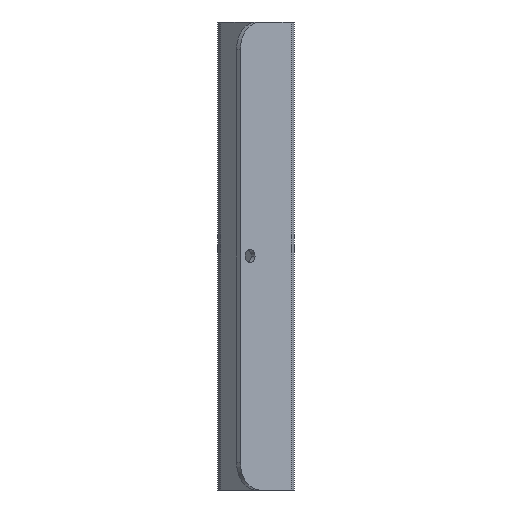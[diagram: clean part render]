
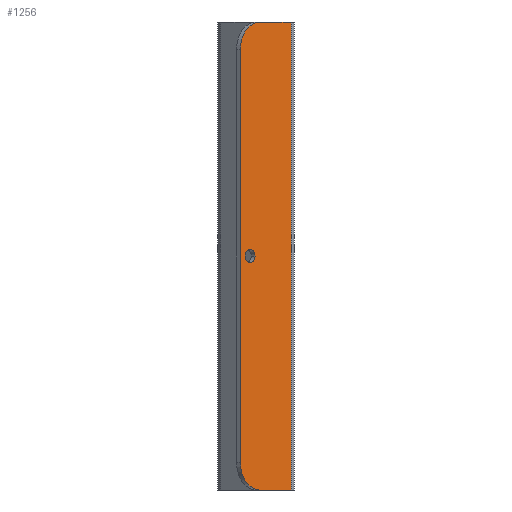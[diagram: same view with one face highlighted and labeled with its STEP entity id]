
A CAD part, left-side view. The second image highlights one B-rep face of the part: STEP entity #1256.
In plain terms, the highlighted planar face has unit normal (-0.707, -0.707, 0).
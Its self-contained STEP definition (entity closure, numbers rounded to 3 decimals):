
#16 = DIRECTION ( 'NONE',  ( 0.707, 0.707, 0. ) ) ;
#20 = CARTESIAN_POINT ( 'NONE',  ( -120.208, 7.071, 5. ) ) ;
#43 = ORIENTED_EDGE ( 'NONE', *, *, #2202, .T. ) ;
#74 = DIRECTION ( 'NONE',  ( 0.707, 0.707, 0. ) ) ;
#127 = DIRECTION ( 'NONE',  ( 0., 0., -1. ) ) ;
#134 = CARTESIAN_POINT ( 'NONE',  ( -113.137, 0., 85. ) ) ;
#186 = DIRECTION ( 'NONE',  ( 0.707, -0.707, 0. ) ) ;
#189 = DIRECTION ( 'NONE',  ( 0., 0., -1. ) ) ;
#198 = VECTOR ( 'NONE', #127, 1000. ) ;
#220 = CARTESIAN_POINT ( 'NONE',  ( -113.137, 0., 0. ) ) ;
#225 = CARTESIAN_POINT ( 'NONE',  ( -121.976, 8.839, 42.5 ) ) ;
#293 = VERTEX_POINT ( 'NONE', #2088 ) ;
#381 = ORIENTED_EDGE ( 'NONE', *, *, #470, .T. ) ;
#394 = EDGE_CURVE ( 'NONE', #293, #1653, #1639, .T. ) ;
#470 = EDGE_CURVE ( 'NONE', #660, #1021, #782, .T. ) ;
#497 = EDGE_CURVE ( 'NONE', #1653, #293, #1141, .T. ) ;
#507 = ORIENTED_EDGE ( 'NONE', *, *, #1745, .T. ) ;
#522 = LINE ( 'NONE', #1527, #1992 ) ;
#571 = AXIS2_PLACEMENT_3D ( 'NONE', #2136, #916, #1766 ) ;
#592 = CARTESIAN_POINT ( 'NONE',  ( -121.976, 8.839, 42.5 ) ) ;
#603 = DIRECTION ( 'NONE',  ( -0.707, 0.707, 0. ) ) ;
#628 = EDGE_LOOP ( 'NONE', ( #507, #381, #43, #1625, #884, #784 ) ) ;
#645 = FACE_OUTER_BOUND ( 'NONE', #628, .T. ) ;
#660 = VERTEX_POINT ( 'NONE', #1368 ) ;
#663 = CARTESIAN_POINT ( 'NONE',  ( -121.092, 7.955, 42.5 ) ) ;
#712 = CARTESIAN_POINT ( 'NONE',  ( -123.744, 10.607, 80. ) ) ;
#723 = LINE ( 'NONE', #220, #1371 ) ;
#727 = EDGE_CURVE ( 'NONE', #1275, #1884, #2166, .T. ) ;
#751 = AXIS2_PLACEMENT_3D ( 'NONE', #592, #74, #603 ) ;
#782 = CIRCLE ( 'NONE', #571, 5. ) ;
#784 = ORIENTED_EDGE ( 'NONE', *, *, #727, .F. ) ;
#798 = DIRECTION ( 'NONE',  ( 0.707, -0.707, 0. ) ) ;
#884 = ORIENTED_EDGE ( 'NONE', *, *, #1834, .F. ) ;
#916 = DIRECTION ( 'NONE',  ( -0.707, -0.707, 0. ) ) ;
#934 = VECTOR ( 'NONE', #1547, 1000. ) ;
#950 = EDGE_CURVE ( 'NONE', #1522, #2054, #1842, .T. ) ;
#1021 = VERTEX_POINT ( 'NONE', #712 ) ;
#1023 = ORIENTED_EDGE ( 'NONE', *, *, #394, .T. ) ;
#1048 = DIRECTION ( 'NONE',  ( -0.707, -0.707, 0. ) ) ;
#1061 = EDGE_LOOP ( 'NONE', ( #1023, #1591 ) ) ;
#1102 = CARTESIAN_POINT ( 'NONE',  ( -120.208, 7.071, 0. ) ) ;
#1113 = CARTESIAN_POINT ( 'NONE',  ( -123.744, 10.607, 5. ) ) ;
#1134 = PLANE ( 'NONE',  #2162 ) ;
#1141 = CIRCLE ( 'NONE', #751, 1.25 ) ;
#1175 = FACE_BOUND ( 'NONE', #1061, .T. ) ;
#1256 = ADVANCED_FACE ( 'NONE', ( #1175, #645 ), #1134, .T. ) ;
#1275 = VERTEX_POINT ( 'NONE', #1313 ) ;
#1313 = CARTESIAN_POINT ( 'NONE',  ( -114.551, 1.414, 85. ) ) ;
#1317 = CARTESIAN_POINT ( 'NONE',  ( -114.551, 1.414, 0. ) ) ;
#1368 = CARTESIAN_POINT ( 'NONE',  ( -120.208, 7.071, 85. ) ) ;
#1371 = VECTOR ( 'NONE', #1407, 1000. ) ;
#1398 = CARTESIAN_POINT ( 'NONE',  ( -113.137, 0., 85. ) ) ;
#1407 = DIRECTION ( 'NONE',  ( -0.707, 0.707, 0. ) ) ;
#1417 = LINE ( 'NONE', #1398, #934 ) ;
#1522 = VERTEX_POINT ( 'NONE', #1113 ) ;
#1527 = CARTESIAN_POINT ( 'NONE',  ( -123.744, 10.607, 85. ) ) ;
#1547 = DIRECTION ( 'NONE',  ( -0.707, 0.707, 0. ) ) ;
#1583 = AXIS2_PLACEMENT_3D ( 'NONE', #20, #1048, #186 ) ;
#1591 = ORIENTED_EDGE ( 'NONE', *, *, #497, .T. ) ;
#1625 = ORIENTED_EDGE ( 'NONE', *, *, #950, .T. ) ;
#1639 = CIRCLE ( 'NONE', #1750, 1.25 ) ;
#1653 = VERTEX_POINT ( 'NONE', #663 ) ;
#1745 = EDGE_CURVE ( 'NONE', #1275, #660, #1417, .T. ) ;
#1750 = AXIS2_PLACEMENT_3D ( 'NONE', #225, #16, #2052 ) ;
#1766 = DIRECTION ( 'NONE',  ( 0.707, -0.707, 0. ) ) ;
#1834 = EDGE_CURVE ( 'NONE', #1884, #2054, #723, .T. ) ;
#1842 = CIRCLE ( 'NONE', #1583, 5. ) ;
#1862 = CARTESIAN_POINT ( 'NONE',  ( -114.551, 1.414, 85. ) ) ;
#1884 = VERTEX_POINT ( 'NONE', #1317 ) ;
#1992 = VECTOR ( 'NONE', #189, 1000. ) ;
#2006 = DIRECTION ( 'NONE',  ( -0.707, -0.707, 0. ) ) ;
#2052 = DIRECTION ( 'NONE',  ( -0.707, 0.707, 0. ) ) ;
#2054 = VERTEX_POINT ( 'NONE', #1102 ) ;
#2088 = CARTESIAN_POINT ( 'NONE',  ( -122.86, 9.723, 42.5 ) ) ;
#2136 = CARTESIAN_POINT ( 'NONE',  ( -120.208, 7.071, 80. ) ) ;
#2162 = AXIS2_PLACEMENT_3D ( 'NONE', #134, #2006, #798 ) ;
#2166 = LINE ( 'NONE', #1862, #198 ) ;
#2202 = EDGE_CURVE ( 'NONE', #1021, #1522, #522, .T. ) ;
